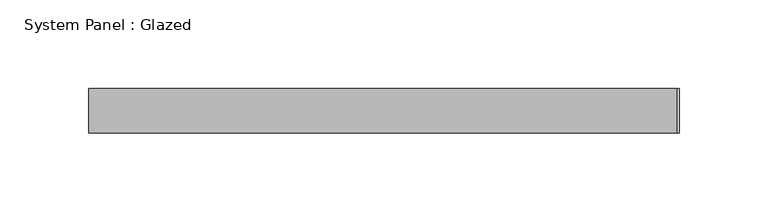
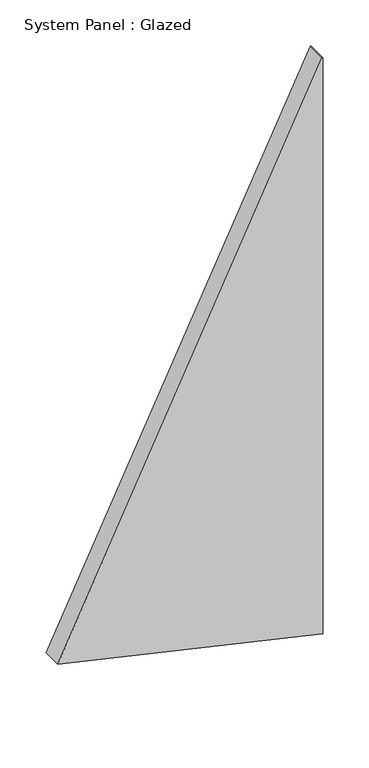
"""IFC4 building model written with IfcOpenShell, lengths in millimetres: plate geometry, System Panel : Glazed."""

from ifc_helpers import new_model, si_unit, frame, origin, place, context, project, spatial, polyline, outline, extrude, source, transform, mapped, element, save


def system_panel_glazed_f8c5e75f(model_context):
    return source(origin(), model_context, "Body", "SweptSolid", [
        extrude(outline(polyline([(76.093957, -166.3528866), (0.0, 166.3488157), (762.8431207, 166.3528866), (763.0965383, 165.2448819), (76.093957, -166.3528866)])), frame((0.0, -49.5, 0.0), z_axis=(0.0, 1.0, 0.0), x_axis=(0.0, 0.0, 1.0)), (0.0, 0.0, 1.0), 25.0),
    ])


if __name__ == "__main__":
    model = new_model("IFC4")
    model_context = context("Model", 3, world=origin())
    ifc_project = project(units=[si_unit("LENGTHUNIT", "METRE", prefix="MILLI")], contexts=[model_context])
    site = spatial("IfcSite", under=ifc_project)
    building = spatial("IfcBuilding", under=site)
    placement = place(None, origin())
    system_panel_glazed_shape = system_panel_glazed_f8c5e75f(model_context)
    element("IfcPlate", 1, ObjectType="System Panel : Glazed", at=placement, inside=building, context=model_context, shape_type="MappedRepresentation", body=[
        mapped(system_panel_glazed_shape, transform((0.0, 0.0, 0.0), x_axis=(1.0, 0.0, 0.0), y_axis=(0.0, 1.0, 0.0), z_axis=(0.0, 0.0, 1.0))),
    ])
    save(model, "model.ifc")
